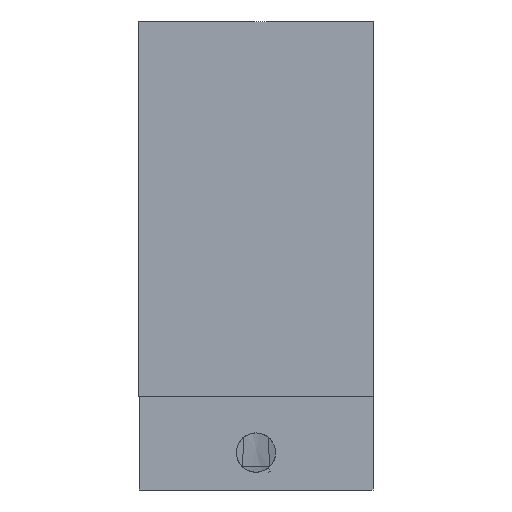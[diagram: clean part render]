
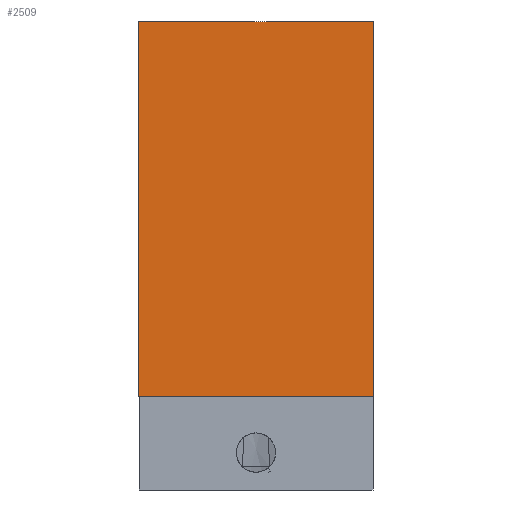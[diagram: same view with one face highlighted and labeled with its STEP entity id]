
A CAD part, front view. The second image highlights one B-rep face of the part: STEP entity #2509.
In plain terms, the highlighted planar face has unit normal (0, -1, 0).
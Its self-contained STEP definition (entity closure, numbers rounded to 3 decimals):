
#439=FACE_OUTER_BOUND('',#597,.T.);
#597=EDGE_LOOP('',(#2274,#2275,#2276,#2277));
#773=LINE('',#5882,#959);
#776=LINE('',#5896,#962);
#777=LINE('',#5898,#963);
#778=LINE('',#5899,#964);
#959=VECTOR('',#3464,1.);
#962=VECTOR('',#3477,1.);
#963=VECTOR('',#3478,1.);
#964=VECTOR('',#3479,1.);
#1196=VERTEX_POINT('',#5879);
#1197=VERTEX_POINT('',#5881);
#1203=VERTEX_POINT('',#5895);
#1204=VERTEX_POINT('',#5897);
#1557=EDGE_CURVE('',#1197,#1196,#773,.T.);
#1564=EDGE_CURVE('',#1196,#1203,#776,.T.);
#1565=EDGE_CURVE('',#1204,#1203,#777,.T.);
#1566=EDGE_CURVE('',#1197,#1204,#778,.T.);
#2274=ORIENTED_EDGE('',*,*,#1564,.T.);
#2275=ORIENTED_EDGE('',*,*,#1565,.F.);
#2276=ORIENTED_EDGE('',*,*,#1566,.F.);
#2277=ORIENTED_EDGE('',*,*,#1557,.T.);
#2369=PLANE('',#2788);
#2509=ADVANCED_FACE('',(#439),#2369,.F.);
#2788=AXIS2_PLACEMENT_3D('',#5894,#3475,#3476);
#3464=DIRECTION('',(1.,0.,0.));
#3475=DIRECTION('center_axis',(0.,1.,0.));
#3476=DIRECTION('ref_axis',(0.,0.,-1.));
#3477=DIRECTION('',(0.,0.,1.));
#3478=DIRECTION('',(1.,0.,0.));
#3479=DIRECTION('',(0.,0.,1.));
#5879=CARTESIAN_POINT('',(-14.984,-27.5,-795.516));
#5881=CARTESIAN_POINT('',(-39.984,-27.5,-795.516));
#5882=CARTESIAN_POINT('',(-39.984,-27.5,-795.516));
#5894=CARTESIAN_POINT('Origin',(-39.984,-27.5,-795.516));
#5895=CARTESIAN_POINT('',(-14.984,-27.5,-755.516));
#5896=CARTESIAN_POINT('',(-14.984,-27.5,-795.516));
#5897=CARTESIAN_POINT('',(-39.984,-27.5,-755.516));
#5898=CARTESIAN_POINT('',(-39.984,-27.5,-755.516));
#5899=CARTESIAN_POINT('',(-39.984,-27.5,-795.516));
